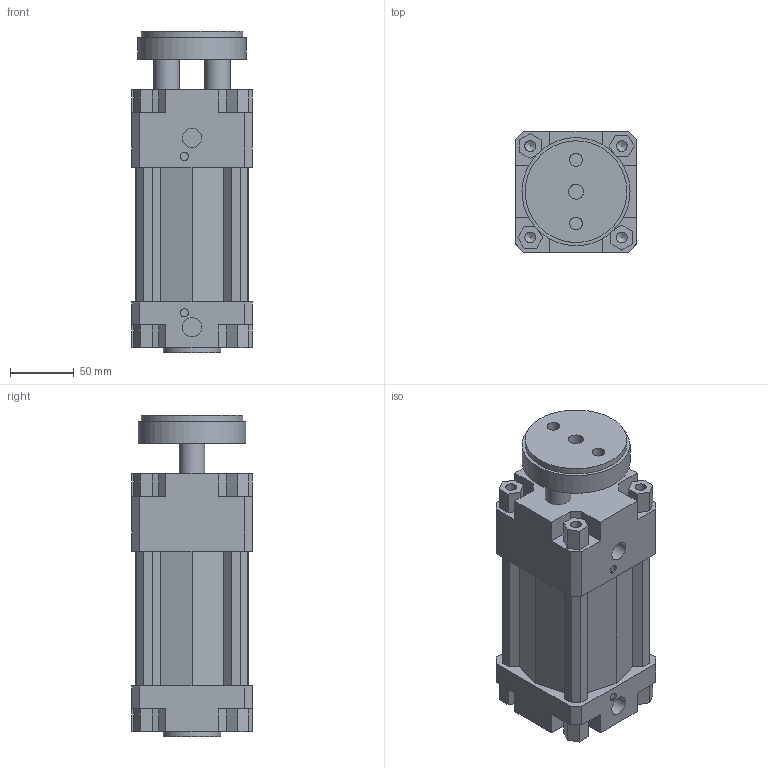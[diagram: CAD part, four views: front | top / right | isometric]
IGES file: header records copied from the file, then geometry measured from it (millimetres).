
Global section: file name: 134#_080_0050_01; native system: Autodesk Inventor 2014; preprocessor: unknown; author: A. Manieri; date: 20161006.165149; units: millimetre
Bounding box: 95 x 95 x 253 mm (x, y, z)
Volume: 1437732.4 mm3; surface area: 212960.7 mm2
Topology: 2 solids, 2 shells, 180 faces, 491 edges, 335 vertices
Faces by surface type: bspline 180
